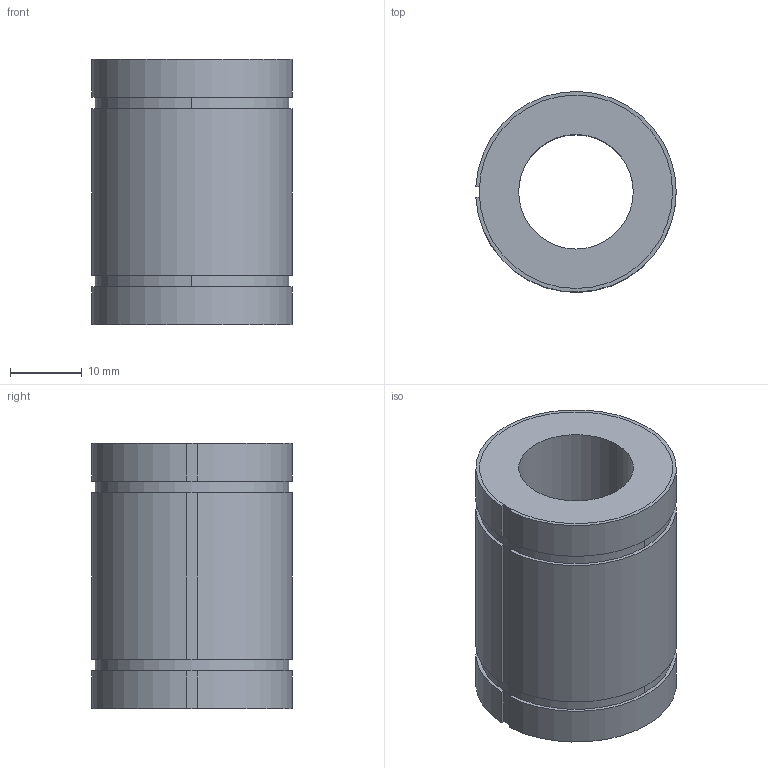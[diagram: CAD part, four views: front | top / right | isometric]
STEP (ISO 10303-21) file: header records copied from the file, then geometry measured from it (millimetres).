
FILE_DESCRIPTION((''),'2;1');
FILE_NAME('C:\Documents and Settings\ｿﾀﾀ蠑ｷ1\ｹﾙﾅﾁ ﾈｭｸ饅\ｺﾎﾇｰﾆﾄﾀﾏ\ﾁｦﾇｰ\LM__UUAJ\LM16UUAJ.stp','2005-06-14T16:24:35',('ｿﾀﾀ蠑ｷ1'),(''),'Autodesk Inventor 9','Autodesk Inventor 9','');
FILE_SCHEMA(('AUTOMOTIVE_DESIGN { 1 0 10303 214 1 1 1 1 }'));
Length unit declared in the file: millimetre
Products named in the file (1): LM__AJ
Bounding box: 27.98 x 27.99 x 37 mm (x, y, z)
Volume: 15180.3 mm3; surface area: 6134.6 mm2
Topology: 1 solids, 1 shells, 29 faces, 76 edges, 49 vertices
Faces by surface type: plane 17, cylinder 12
Entity records: 928 total; most frequent: DIRECTION 167, CARTESIAN_POINT 155, ORIENTED_EDGE 152, EDGE_CURVE 76, AXIS2_PLACEMENT_3D 61, VERTEX_POINT 49, VECTOR 45, LINE 45
